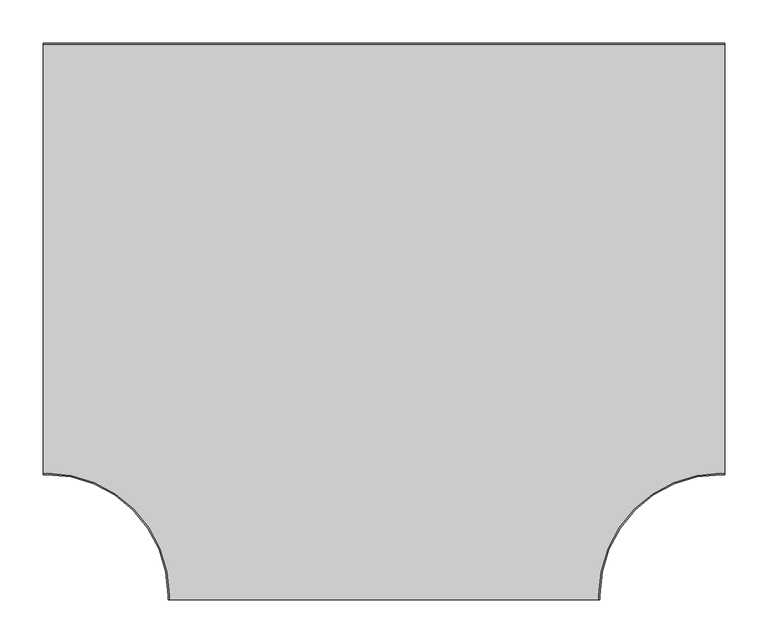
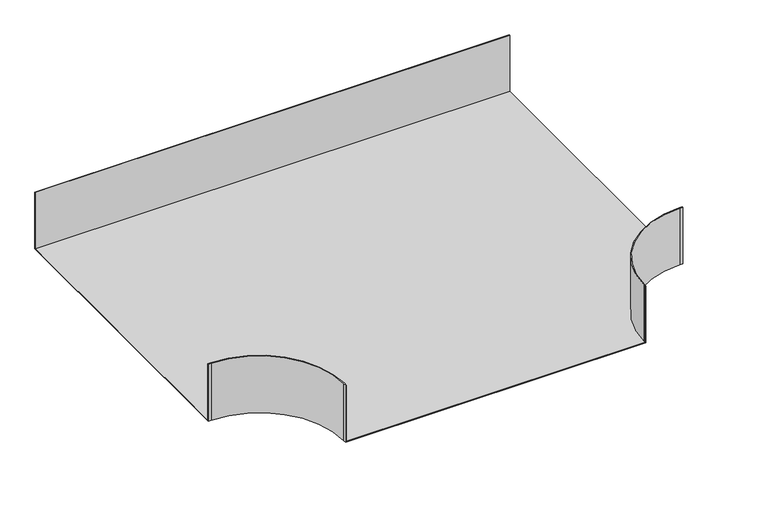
"""IFC4 building model written with IfcOpenShell, lengths in millimetres: cable carrier fitting geometry, BAKS_Horizontal tee radius : TKPJ_H100."""

from ifc_helpers import new_model, si_unit, frame, origin, place, context, project, spatial, polyline, circle_curve, source, transform, mapped, element, save
from ifc_brep_helpers import plane_surface, cylinder_surface, revolved_surface, advanced_brep


def cable_carrier_fitting_385655bb(model_context):
    return source(origin(), model_context, "Body", "AdvancedBrep", [
        advanced_brep(
        [(-250.0, -390.0, 50.0), (-250.0, -395.0, 50.0), (-249.0, -395.0, 50.0), (-249.0, -390.0, 50.0), (-390.0, -248.5008834, 50.0), (-395.0, -249.0, 50.0), (-395.0, -250.0, 50.0), (-390.0, -250.0, 50.0), (250.0, -390.0, 50.0), (390.0, -250.0, 50.0), (395.0, -250.0, 50.0), (395.0, -249.0, 50.0), (390.0, -248.5008834, 50.0), (249.0, -390.0, 50.0), (249.0, -395.0, 50.0), (250.0, -395.0, 50.0), (395.0, 250.0, 50.0), (-395.0, 250.0, 50.0), (-395.0, 249.0, 50.0), (395.0, 249.0, 50.0), (-250.0, -390.0, -50.0), (-390.0, -250.0, -50.0), (-395.0, -250.0, -50.0), (-395.0, 250.0, -50.0), (395.0, 250.0, -50.0), (395.0, -250.0, -50.0), (390.0, -250.0, -50.0), (250.0, -390.0, -50.0), (250.0, -395.0, -50.0), (-250.0, -395.0, -50.0), (-250.0, -390.0, -49.0), (249.0, -395.0, -49.0), (-249.0, -395.0, -49.0), (-249.0, -390.0, -49.0), (-390.0, -248.5008834, -49.0), (-395.0, -249.0, -49.0), (-395.0, 249.0, -49.0), (-390.0, -250.0, -49.0), (250.0, -390.0, -49.0), (390.0, -250.0, -49.0), (395.0, 249.0, -49.0), (395.0, -249.0, -49.0), (390.0, -248.5008834, -49.0), (249.0, -390.0, -49.0)],
        [
            (0, 1),
            (1, 2),
            (2, 3),
            (3, 4, circle_curve(frame((-390.5, -390.0, 50.0), z_axis=(0.0, 0.0, 1.0), x_axis=(1.0, 0.0, 0.0)), 141.5)),
            (4, 5),
            (5, 6),
            (6, 7),
            (7, 0, circle_curve(frame((-390.0, -390.0, 50.0), z_axis=(0.0, 0.0, -1.0), x_axis=(1.0, 0.0, 0.0)), 140.0)),
            (8, 9, circle_curve(frame((390.0, -390.0, 50.0), z_axis=(0.0, 0.0, -1.0), x_axis=(1.0, 0.0, 0.0)), 140.0)),
            (9, 10),
            (10, 11),
            (11, 12),
            (12, 13, circle_curve(frame((390.5, -390.0, 50.0), z_axis=(0.0, 0.0, 1.0), x_axis=(1.0, 0.0, 0.0)), 141.5)),
            (13, 14),
            (14, 15),
            (15, 8),
            (16, 17),
            (17, 18),
            (18, 19),
            (19, 16),
            (20, 21, circle_curve(frame((-390.0, -390.0, -50.0), z_axis=(0.0, 0.0, 1.0), x_axis=(1.0, 0.0, 0.0)), 140.0)),
            (21, 22),
            (22, 23),
            (23, 24),
            (24, 25),
            (25, 26),
            (26, 27, circle_curve(frame((390.0, -390.0, -50.0), z_axis=(0.0, 0.0, 1.0), x_axis=(1.0, 0.0, 0.0)), 140.0)),
            (27, 28),
            (28, 29),
            (29, 20),
            (29, 1),
            (0, 30),
            (30, 20),
            (28, 15),
            (14, 31),
            (31, 32),
            (32, 2),
            (32, 33),
            (33, 3),
            (33, 34, circle_curve(frame((-390.5, -390.0, -49.0), z_axis=(0.0, 0.0, 1.0), x_axis=(1.0, 0.0, 0.0)), 141.5)),
            (34, 4),
            (34, 35),
            (35, 5),
            (35, 36),
            (36, 18),
            (17, 23),
            (22, 6),
            (21, 37),
            (37, 7),
            (8, 38),
            (38, 27),
            (26, 39),
            (39, 9),
            (25, 10),
            (24, 16),
            (19, 40),
            (40, 41),
            (41, 11),
            (41, 42),
            (42, 12),
            (42, 43, circle_curve(frame((390.5, -390.0, -49.0), z_axis=(0.0, 0.0, 1.0), x_axis=(1.0, 0.0, 0.0)), 141.5)),
            (43, 13),
            (43, 31),
            (36, 40),
        ],
        [
            plane_surface(frame((-250.0, -390.0, 50.0), z_axis=(0.0, 0.0, 1.0), x_axis=(0.0, -1.0, 0.0))),
            plane_surface(frame((-250.0, -390.0, -50.0), z_axis=(0.0, 0.0, -1.0), x_axis=(0.0, 1.0, 0.0))),
            plane_surface(frame((-250.0, -390.0, 50.0), z_axis=(-1.0, 0.0, 0.0), x_axis=(0.0, 0.0, -1.0))),
            plane_surface(frame((-250.0, -395.0, 50.0), z_axis=(0.0, -1.0, 0.0), x_axis=(0.0, 0.0, -1.0))),
            plane_surface(frame((-249.0, -395.0, 50.0), z_axis=(1.0, 0.0, 0.0), x_axis=(0.0, 0.0, -1.0))),
            cylinder_surface(frame((-390.5, -390.0, -50.0), z_axis=(0.0, 0.0, 1.0), x_axis=(1.0, 0.0, 0.0)), 141.5),
            plane_surface(frame((-390.0, -248.5008834, 50.0), z_axis=(-0.09932965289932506, 0.9950545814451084, 0.0), x_axis=(0.0, 0.0, -1.0))),
            plane_surface(frame((-395.0, -249.0, 50.0), z_axis=(-1.0, 0.0, 0.0), x_axis=(0.0, 0.0, -1.0))),
            plane_surface(frame((-395.0, -250.0, 50.0), z_axis=(0.0, -1.0, 0.0), x_axis=(0.0, 0.0, -1.0))),
            revolved_surface(polyline([(-250.0, -390.0, -50.0), (-250.0, -390.0, 50.0)]), (-390.0, -390.0, -50.0), (0.0, 0.0, -1.0)),
            revolved_surface(polyline([(530.0, -390.0, -50.0), (530.0, -390.0, 50.0)]), (390.0, -390.0, 0.0), (0.0, 0.0, -1.0)),
            plane_surface(frame((390.0, -250.0, 50.0), z_axis=(0.0, -1.0, 0.0), x_axis=(0.0, 0.0, -1.0))),
            plane_surface(frame((395.0, -250.0, 50.0), z_axis=(1.0, 0.0, 0.0), x_axis=(0.0, 0.0, -1.0))),
            plane_surface(frame((395.0, -249.0, 50.0), z_axis=(0.09932965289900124, 0.9950545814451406, 0.0), x_axis=(0.0, 0.0, -1.0))),
            cylinder_surface(frame((390.5, -390.0, 0.0), z_axis=(0.0, 0.0, 1.0), x_axis=(1.0, 0.0, 0.0)), 141.5),
            plane_surface(frame((249.0, -390.0, 50.0), z_axis=(-1.0, 0.0, 0.0), x_axis=(0.0, 0.0, -1.0))),
            plane_surface(frame((250.0, -395.0, 50.0), z_axis=(1.0, 0.0, 0.0), x_axis=(0.0, 0.0, -1.0))),
            plane_surface(frame((395.0, 250.0, 50.0), z_axis=(0.0, 1.0, 0.0), x_axis=(0.0, 0.0, -1.0))),
            plane_surface(frame((-395.0, 249.0, 50.0), z_axis=(0.0, -1.0, 0.0), x_axis=(0.0, 0.0, -1.0))),
            plane_surface(frame((-250.0, -390.0, -49.0), z_axis=(0.0, 0.0, 1.0), x_axis=(0.0, -1.0, 0.0))),
        ],
        [
            (0, [[1, 2, 3, 4, 5, 6, 7, 8]]),
            (0, [[9, 10, 11, 12, 13, 14, 15, 16]]),
            (0, [[17, 18, 19, 20]]),
            (1, [[21, 22, 23, 24, 25, 26, 27, 28, 29, 30]]),
            (2, [[31, -1, 32, 33, -30]]),
            (3, [[-2, -31, -29, 34, -15, 35, 36, 37]]),
            (4, [[-3, -37, 38, 39]]),
            (5, [[-4, -39, 40, 41]]),
            (6, [[-5, -41, 42, 43]]),
            (7, [[-6, -43, 44, 45, -18, 46, -23, 47]]),
            (8, [[-7, -47, -22, 48, 49]]),
            (9, [[-8, -49, -48, -21, -33, -32]]),
            (10, [[-9, 50, 51, -27, 52, 53]]),
            (11, [[54, -10, -53, -52, -26]]),
            (12, [[-11, -54, -25, 55, -20, 56, 57, 58]]),
            (13, [[-12, -58, 59, 60]]),
            (14, [[-13, -60, 61, 62]]),
            (15, [[-14, -62, 63, -35]]),
            (16, [[-16, -34, -28, -51, -50]]),
            (17, [[-46, -17, -55, -24]]),
            (18, [[-19, -45, 64, -56]]),
            (19, [[-36, -63, -61, -59, -57, -64, -44, -42, -40, -38]]),
        ],
    ),
    ])


if __name__ == "__main__":
    model = new_model("IFC4")
    model_context = context("Model", 3, world=origin())
    ifc_project = project(units=[si_unit("LENGTHUNIT", "METRE", prefix="MILLI")], contexts=[model_context])
    site = spatial("IfcSite", under=ifc_project)
    building = spatial("IfcBuilding", under=site)
    placement = place(None, origin())
    cable_carrier_fitting_shape = cable_carrier_fitting_385655bb(model_context)
    element("IfcCableCarrierFitting", 1, ObjectType="BAKS_Horizontal tee radius : TKPJ_H100", at=placement, inside=building, context=model_context, shape_type="MappedRepresentation", body=[
        mapped(cable_carrier_fitting_shape, transform((0.0, 0.0, 0.0), x_axis=(1.0, 0.0, 0.0), y_axis=(0.0, 1.0, 0.0), z_axis=(0.0, 0.0, 1.0))),
    ])
    save(model, "model.ifc")
